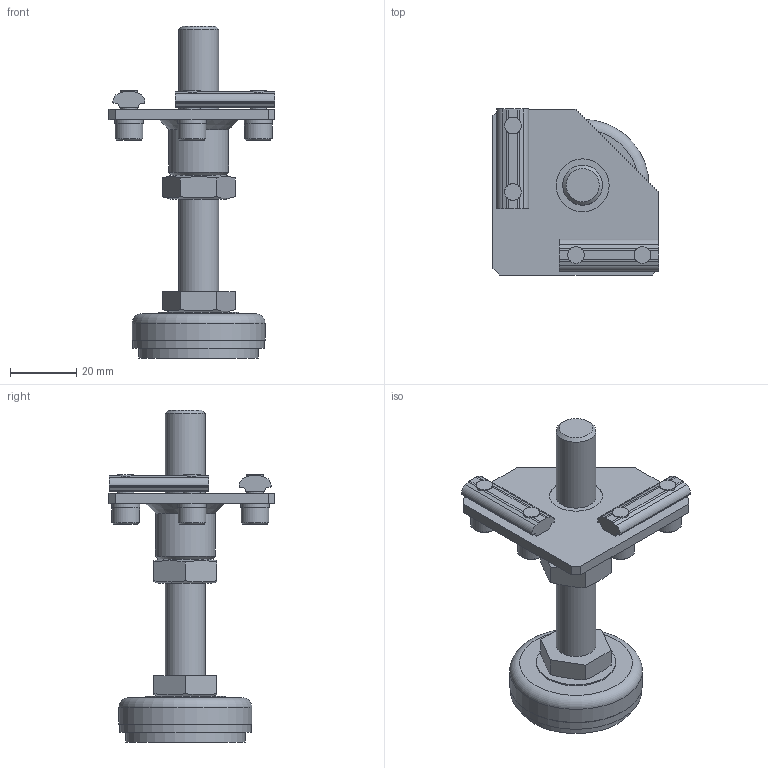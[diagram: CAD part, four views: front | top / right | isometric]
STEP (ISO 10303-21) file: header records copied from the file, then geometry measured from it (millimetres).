
FILE_DESCRIPTION(('STEP AP214'),'1');
FILE_NAME('LS25B-M12.stp','2022-10-21T01:54:28',(' '),(' '),'Spatial InterOp 3D',' ',' ');
FILE_SCHEMA(('AUTOMOTIVE_DESIGN { 1 0 10303 214 1 1 1 1 }'));
Length unit declared in the file: millimetre
Products named in the file (15): LS25B-M12; LP25-M12; ねじ: 穴付き - M5.0 x 10.0; M5SW; NFM5-P20; AJ1240L100; M12ナット
Assembly tree (14 placements, depth 3):
  LS25B-M12
    LP25-M12
    ねじ: 穴付き - M5.0 x 10.0
    (unnamed)
    M5SW
    (unnamed)
    ねじ: 穴付き - M5.0 x 10.0
    (unnamed)
    M5SW
    (unnamed)
    NFM5-P20
    (unnamed)
    AJ1240L100
      AJ1240L100
      M12ナット
Bounding box: 50 x 50 x 100 mm (x, y, z)
Volume: 39116.6 mm3; surface area: 19291.8 mm2
Topology: 13 solids, 13 shells, 191 faces, 453 edges, 300 vertices
Faces by surface type: plane 118, cylinder 58, cone 14, torus 1
Full cylindrical faces by diameter (mm): 5 x4, 5.5 x4, 8.385 x4, 12 x3, 16 x1, 18 x1, 20 x1, 24 x1, 36 x1, 39.6 x1, 40 x1
Entity records: 7302 total; most frequent: CARTESIAN_POINT 1123, DIRECTION 934, ORIENTED_EDGE 814, EDGE_CURVE 407, AXIS2_PLACEMENT_3D 354, VERTEX_POINT 291, EDGE_LOOP 260, LINE 226
